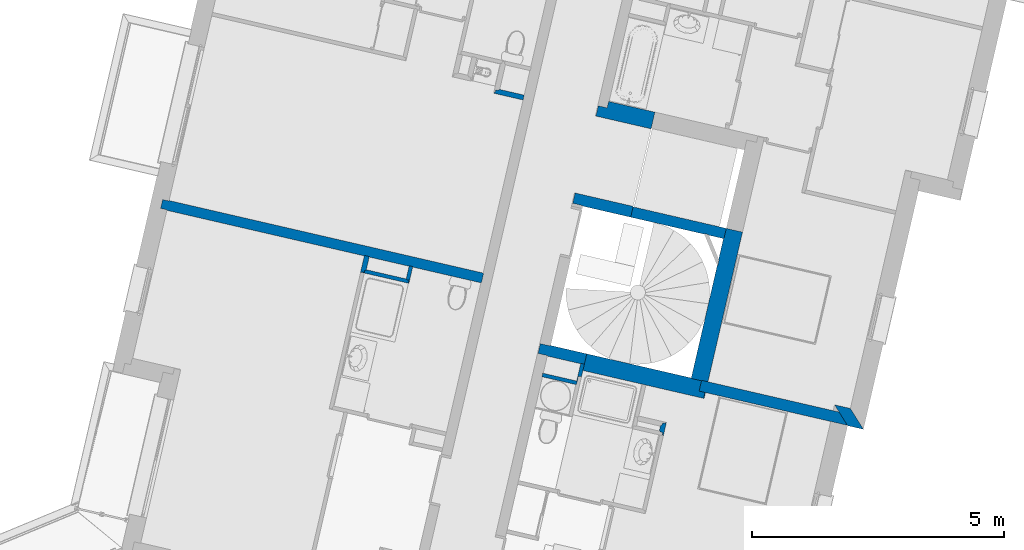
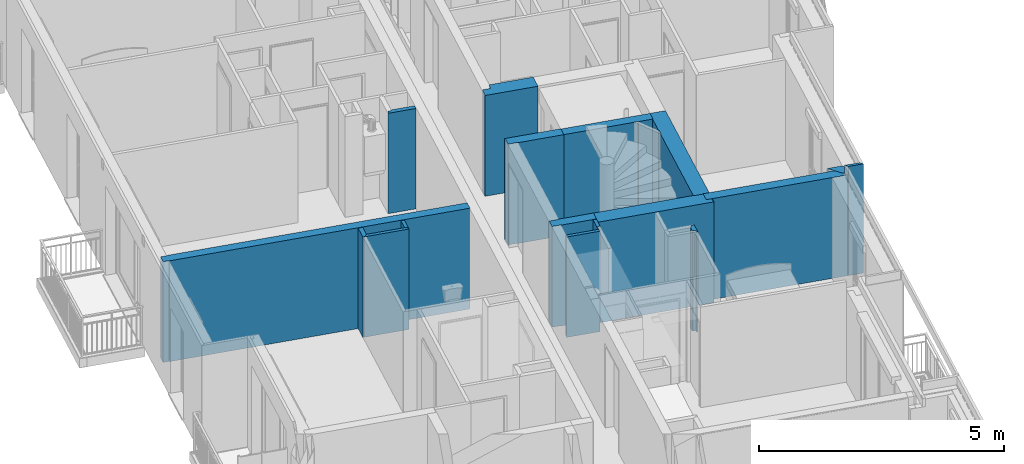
# One storey, part 42 of 91: 16 walls.
"""IFC2X3 building model written with IfcOpenShell, lengths in metres."""

from ifc_helpers import new_model, entity, si_unit, converted_unit, derived_unit, money_unit, direction, frame, origin_with_axes, place, context, subcontext, project, spatial, faceted_brep, material, material_list, type_object, element, save


model = new_model("IFC2X3")

# Units and contexts
model_context = context("Model", 3, precision=1e-05, world=origin_with_axes(), true_north=direction((0.0, 1.0)))
body_context = subcontext(model_context, "Body", "Model", "MODEL_VIEW")
ifc_project = project(units=[si_unit("LENGTHUNIT", "METRE"), si_unit("AREAUNIT", "SQUARE_METRE"), si_unit("VOLUMEUNIT", "CUBIC_METRE"), converted_unit("PLANEANGLEUNIT", "DEGREE", entity("IfcPlaneAngleMeasure", 0.0174532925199), si_unit("PLANEANGLEUNIT", "RADIAN"), dimensions=[0, 0, 0, 0, 0, 0, 0]), si_unit("SOLIDANGLEUNIT", "STERADIAN"), money_unit("EUR"), converted_unit("TIMEUNIT", "Year", entity("IfcTimeMeasure", 31556926.0), si_unit("TIMEUNIT", "SECOND"), dimensions=[0, 0, 1, 0, 0, 0, 0]), si_unit("MASSUNIT", "GRAM", prefix="KILO"), si_unit("THERMODYNAMICTEMPERATUREUNIT", "DEGREE_CELSIUS"), si_unit("LUMINOUSINTENSITYUNIT", "LUMEN"), si_unit("ENERGYUNIT", "JOULE", prefix="MEGA"), derived_unit("THERMALCONDUCTANCEUNIT", [(si_unit("POWERUNIT", "WATT"), 1), (si_unit("LENGTHUNIT", "METRE"), -1), (si_unit("THERMODYNAMICTEMPERATUREUNIT", "KELVIN"), -1)]), derived_unit("SPECIFICHEATCAPACITYUNIT", [(si_unit("ENERGYUNIT", "JOULE"), 1), (si_unit("MASSUNIT", "GRAM", prefix="KILO"), -1), (si_unit("THERMODYNAMICTEMPERATUREUNIT", "KELVIN"), -1)]), derived_unit("MASSDENSITYUNIT", [(si_unit("MASSUNIT", "GRAM", prefix="KILO"), 1), (si_unit("VOLUMEUNIT", "CUBIC_METRE"), -1)])], contexts=[model_context])

# Site, building, storey
site_placement = place(None, origin_with_axes())
site = spatial("IfcSite", under=ifc_project, at=site_placement, Name="Site", CompositionType="ELEMENT")
building_placement = place(site_placement, origin_with_axes())
building = spatial("IfcBuilding", under=site, at=building_placement, Name="Bâtiment", CompositionType="ELEMENT")
storey_placement = place(building_placement, frame((0.0, 0.0, 5.44), z_axis=(0.0, 0.0, 1.0), x_axis=(1.0, 0.0, 0.0)))
storey = spatial("IfcBuildingStorey", under=building, at=storey_placement, Name="R+2", CompositionType="ELEMENT", Elevation=5.44)

# Walls
ifc_material_1 = material(Name="Finition ext - Crépis")
ifc_material_2 = material(Name="Béton cellulaire")
ifc_material_3 = material(Name="Mortier")
ifc_material_4 = material(Name="Isolation - Polystyrène expansé")
ifc_material_5 = material(Name="Bloc ELITHERM")
ifc_material_6 = material(Name="Isolation - Polystyrène extrudé")
ifc_material_7 = material(Name="Finition int - Plaque de plâtre")
ifc_material_list_1 = material_list([ifc_material_1, ifc_material_2, ifc_material_3, ifc_material_4, ifc_material_5, ifc_material_6, ifc_material_7])
wall_type_1 = type_object("IfcWallType", Name="Mur ALKERN + planelle 21 345 x 2720", PredefinedType="USERDEFINED")
wall_1_placement = place(storey_placement, frame((-5.05135470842, -10.4029351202, 0.0), z_axis=(0.0, 0.0, 1.0), x_axis=(-0.974387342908, 0.224876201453, 0.0)))
element("IfcWall", 1, at=wall_1_placement, inside=storey, type_object=wall_type_1, material=ifc_material_list_1, Name="Mue bloc ALKERN isolé", ObjectType="SOLIDWALL", context=body_context, shape_type="Brep", body=[
    faceted_brep([(0.0149999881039, -0.0149999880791, 2.72), (0.337581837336, -0.0149999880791, 2.72), (0.322581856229, -7.0035515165e-09, 2.72), (7.00355551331e-09, -7.00354974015e-09, 2.72), (0.0149999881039, -0.0149999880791, 0.0), (0.337581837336, -0.0149999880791, 0.0), (0.322581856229, -7.0035515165e-09, 0.0), (7.00355551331e-09, -7.0035515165e-09, 0.0)], [[[0, 1, 2, 3]], [[4, 5, 1, 0]], [[5, 6, 2, 1]], [[3, 2, 6, 7]], [[4, 0, 3, 7]], [[7, 6, 5, 4]]]),
    faceted_brep([(0.385581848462, -0.0629999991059, 2.72), (0.337581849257, -0.015, 2.72), (0.0150000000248, -0.015, 2.72), (0.0629999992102, -0.0629999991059, 2.72), (0.337581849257, -0.015, 2.51999998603), (0.385581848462, -0.0629999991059, 2.51999998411), (0.0150000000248, -0.015, 2.51999999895), (0.0629999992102, -0.0629999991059, 2.51999999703)], [[[0, 1, 2, 3]], [[4, 1, 0, 5]], [[1, 4, 6, 2]], [[3, 2, 6, 7]], [[5, 0, 3, 7]], [[4, 5, 7, 6]]]),
    faceted_brep([(0.405581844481, -0.0829999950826, 2.51999998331), (0.337581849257, -0.015, 2.51999998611), (0.0150000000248, -0.015, 2.51999999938), (0.08299999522, -0.0829999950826, 2.51999998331), (0.337581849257, -0.015, 2.51000000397), (0.405581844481, -0.0829999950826, 2.51000000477), (0.0150000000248, -0.015, 2.51000000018), (0.08299999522, -0.0829999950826, 2.51000000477)], [[[0, 1, 2, 3]], [[4, 1, 0, 5]], [[1, 4, 6, 2]], [[3, 2, 6, 7]], [[5, 0, 3, 7]], [[4, 5, 7, 6]]]),
    faceted_brep([(0.0649033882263, -0.0649033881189, 2.51999999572), (0.0649033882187, -0.0649033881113, 2.72), (0.0630000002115, -0.0630000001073, 2.72), (0.0630000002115, -0.0630000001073, 2.51999999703), (0.0649033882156, -0.0630000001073, 2.72), (0.0649033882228, -0.0630000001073, 2.51999999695)], [[[0, 1, 2, 3]], [[4, 1, 0, 5]], [[1, 4, 2]], [[4, 5, 3, 2]], [[5, 0, 3]]]),
    faceted_brep([(0.405581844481, -0.0829999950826, 2.51000000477), (0.337581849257, -0.015, 2.50999999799), (0.0150000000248, -0.015, 2.50999999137), (0.08299999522, -0.0829999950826, 2.51000000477), (0.337581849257, -0.015, 0.0), (0.537581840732, -0.214999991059, 2.51000000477), (0.537581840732, -0.214999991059, 0.0), (0.0150000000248, -0.015, 0.0), (0.214999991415, -0.214999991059, 0.0), (0.214999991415, -0.214999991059, 2.51000000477)], [[[0, 1, 2, 3]], [[4, 1, 0, 5, 6]], [[1, 4, 7, 2]], [[3, 2, 7, 8, 9]], [[5, 0, 3, 9]], [[6, 5, 9, 8]], [[4, 6, 8, 7]]]),
    faceted_brep([(0.335000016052, -0.335000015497, 2.51000000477), (0.65758186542, -0.335000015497, 2.51000000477), (0.537581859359, -0.215000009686, 2.51000000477), (0.215000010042, -0.215000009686, 2.51000000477), (0.335000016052, -0.335000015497, 0.0), (0.65758186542, -0.335000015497, 0.0), (0.537581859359, -0.215000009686, 0.0), (0.215000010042, -0.215000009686, 0.0)], [[[0, 1, 2, 3]], [[4, 5, 1, 0]], [[5, 6, 2, 1]], [[3, 2, 6, 7]], [[4, 0, 3, 7]], [[7, 6, 5, 4]]]),
    faceted_brep([(0.34499997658, -0.344999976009, 2.51000000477), (0.667581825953, -0.344999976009, 2.51000000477), (0.65758186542, -0.335000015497, 2.51000000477), (0.335000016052, -0.335000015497, 2.51000000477), (0.34499997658, -0.344999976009, 0.0), (0.667581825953, -0.344999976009, 0.0), (0.65758186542, -0.335000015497, 0.0), (0.335000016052, -0.335000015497, 0.0)], [[[0, 1, 2, 3]], [[4, 5, 1, 0]], [[5, 6, 2, 1]], [[3, 2, 6, 7]], [[4, 0, 3, 7]], [[7, 6, 5, 4]]]),
])
ifc_material_8 = material(Name="Finition int - Enduit plâtre")
ifc_material_9 = material(Name="Béton")
ifc_material_list_2 = material_list([ifc_material_8, ifc_material_9, ifc_material_8])
wall_type_2 = type_object("IfcWallType", Name="2 - Murs Béton 18 + Enduit 2 Faces 200", PredefinedType="USERDEFINED")
wall_2_placement = place(storey_placement, frame((-19.2167882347, -5.96817026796, 0.0), z_axis=(0.0, 0.0, 1.0), x_axis=(0.97438734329, -0.224876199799, 0.0)))
element("IfcWall", 2, at=wall_2_placement, inside=storey, type_object=wall_type_2, material=ifc_material_list_2, Name="M_Ext-008", ObjectType="SOLIDWALL", context=body_context, shape_type="Brep", body=[
    faceted_brep([(6.74531037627, 0.19, 0.0), (0.34499998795, 0.19, 0.0), (0.34499998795, 0.19, 2.51), (6.74531037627, 0.19, 2.5100000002), (6.74531037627, 0.18, 0.0), (0.344999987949, 0.18, 0.0), (0.344999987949, 0.18, 2.51), (6.74531037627, 0.18, 2.5100000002)], [[[0, 1, 2, 3]], [[4, 5, 1, 0]], [[5, 6, 2, 1]], [[3, 2, 6, 7]], [[4, 0, 3, 7]], [[7, 6, 5, 4]]]),
    faceted_brep([(6.75531037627, 0.18, 0.0), (0.214999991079, 0.18, 0.0), (0.214999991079, 0.18, 2.50999999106), (6.75531037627, 0.18, 2.5100000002), (6.75531037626, 0.0, 0.0), (0.214999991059, 0.0, 0.0), (0.214999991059, 0.0, 2.50999999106), (6.75531037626, 0.0, 2.5100000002)], [[[0, 1, 2, 3]], [[4, 5, 1, 0]], [[5, 6, 2, 1]], [[3, 2, 6, 7]], [[4, 0, 3, 7]], [[7, 6, 5, 4]]]),
    faceted_brep([(5.35531037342, -0.01, 2.5), (5.28131037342, -0.01, 2.5), (5.28131037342, 0.0, 2.5), (5.35531037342, 0.0, 2.5), (5.28131037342, -0.01, 0.0), (5.35531037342, -0.01, 0.0), (6.74531037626, -0.01, 0.0), (6.74531037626, -0.01, 2.5100000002), (0.344999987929, -0.01, 2.51), (0.344999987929, -0.01, 0.0), (4.36931037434, -0.01, 0.0), (4.36931037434, -0.01, 2.5), (4.46931037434, -0.01, 2.5), (4.46931037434, -0.01, 0.0), (5.28131037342, 0.0, 0.0), (4.46931037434, 0.0, 0.0), (4.46931037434, 0.0, 2.5), (4.36931037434, 0.0, 2.5), (4.36931037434, 0.0, 0.0), (0.34499998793, 0.0, 0.0), (0.34499998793, 0.0, 2.51), (6.74531037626, 0.0, 2.5100000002), (6.74531037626, 0.0, 0.0), (5.35531037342, 0.0, 0.0)], [[[0, 1, 2, 3]], [[4, 1, 0, 5, 6, 7, 8, 9, 10, 11, 12, 13]], [[4, 14, 2, 1]], [[2, 14, 15, 16, 17, 18, 19, 20, 21, 22, 23, 3]], [[0, 3, 23, 5]], [[6, 5, 23, 22]], [[6, 22, 21, 7]], [[21, 20, 8, 7]], [[9, 8, 20, 19]], [[19, 18, 10, 9]], [[10, 18, 17, 11]], [[17, 16, 12, 11]], [[12, 16, 15, 13]], [[15, 14, 4, 13]]]),
])
wall_type_3 = type_object("IfcWallType", Name="2 - Murs Béton 20 + Enduit 2 Faces  220", PredefinedType="USERDEFINED")
wall_3_placement = place(storey_placement, frame((-10.5480606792, -8.91918047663, 0.0), z_axis=(0.0, 0.0, 1.0), x_axis=(-0.974387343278, 0.224876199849, 0.0)))
element("IfcWall", 3, at=wall_3_placement, inside=storey, type_object=wall_type_3, material=ifc_material_list_2, Name="M_Ext-009", ObjectType="SOLIDWALL", context=body_context, shape_type="Brep", body=[
    faceted_brep([(0.754999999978, 0.195, 2.51), (0.0, 0.195, 2.51), (0.0, 0.195, 2.5), (0.074, 0.195, 2.5), (0.074, 0.195, 0.0), (0.754999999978, 0.195, 0.0), (0.0, 0.205, 2.51), (0.754999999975, 0.205, 2.51), (0.0, 0.205, 2.5), (0.074, 0.205, 2.5), (0.074, 0.205, 0.0), (0.754999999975, 0.205, 0.0)], [[[0, 1, 2, 3, 4, 5]], [[6, 1, 0, 7]], [[1, 6, 8, 2]], [[8, 9, 3, 2]], [[10, 4, 3, 9]], [[10, 11, 5, 4]], [[7, 0, 5, 11]], [[6, 7, 11, 10, 9, 8]]]),
    faceted_brep([(0.945000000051, -0.005, 2.51), (8.94070772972e-09, -0.005, 2.51), (1.78814136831e-08, -0.005, 2.5), (1.78814136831e-08, -0.005, 0.0), (0.945000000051, -0.005, 0.0), (8.94070772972e-09, 0.195, 2.51), (0.944999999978, 0.195, 2.51), (1.78814136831e-08, 0.195, 2.5), (1.78814136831e-08, 0.195, 0.0), (0.944999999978, 0.195, 0.0)], [[[0, 1, 2, 3, 4]], [[5, 1, 0, 6]], [[1, 5, 7, 2]], [[7, 8, 3, 2]], [[8, 9, 4, 3]], [[6, 0, 4, 9]], [[5, 6, 9, 8, 7]]]),
    faceted_brep([(0.745000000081, -0.015, 2.51), (8.94070772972e-09, -0.015, 2.51), (1.78814136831e-08, -0.015, 2.5), (1.78814136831e-08, -0.015, 0.0), (0.745000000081, -0.015, 0.0), (8.94070772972e-09, -0.005, 2.51), (0.745000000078, -0.005, 2.51), (1.78814136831e-08, -0.005, 2.5), (1.78814136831e-08, -0.005, 0.0), (0.745000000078, -0.005, 0.0)], [[[0, 1, 2, 3, 4]], [[5, 1, 0, 6]], [[1, 5, 7, 2]], [[7, 8, 3, 2]], [[8, 9, 4, 3]], [[6, 0, 4, 9]], [[5, 6, 9, 8, 7]]]),
])
wall_4_placement = place(storey_placement, frame((-9.62496216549, -5.98665355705, 0.0), z_axis=(0.0, 0.0, 1.0), x_axis=(-0.974387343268, 0.224876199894, 0.0)))
element("IfcWall", 4, at=wall_4_placement, inside=storey, type_object=wall_type_3, material=ifc_material_list_2, Name="M_Ext-009", ObjectType="SOLIDWALL", context=body_context, shape_type="Brep", body=[
    faceted_brep([(0.984999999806, 0.21, 0.0), (0.98499999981, 0.2, 0.0), (0.0, 0.2, 0.0), (0.0, 0.21, 0.0), (0.984999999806, 0.21, 2.51), (0.98499999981, 0.2, 2.51), (0.0, 0.2, 2.51), (0.0, 0.21, 2.51)], [[[0, 1, 2, 3]], [[1, 0, 4, 5]], [[1, 5, 6, 2]], [[7, 3, 2, 6]], [[4, 0, 3, 7]], [[5, 4, 7, 6]]]),
    faceted_brep([(1.18499999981, 0.2, 0.0), (1.18499999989, 0.0, 0.0), (0.0, 0.0, 0.0), (0.0, 0.2, 0.0), (1.18499999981, 0.2, 2.51), (1.18499999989, 0.0, 2.51), (0.0, 0.0, 2.51), (0.0, 0.2, 2.51)], [[[0, 1, 2, 3]], [[1, 0, 4, 5]], [[1, 5, 6, 2]], [[7, 3, 2, 6]], [[4, 0, 3, 7]], [[5, 4, 7, 6]]]),
    faceted_brep([(1.19499999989, 0.0, 0.0), (1.19499999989, -0.01, 0.0), (0.0, -0.01, 0.0), (0.0, 0.0, 0.0), (1.19499999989, 0.0, 2.51), (1.19499999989, -0.01, 2.51), (0.0, -0.01, 2.51), (0.0, 0.0, 2.51)], [[[0, 1, 2, 3]], [[1, 0, 4, 5]], [[1, 5, 6, 2]], [[7, 3, 2, 6]], [[4, 0, 3, 7]], [[5, 4, 7, 6]]]),
])
wall_5_placement = place(storey_placement, frame((-5.37691703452, -10.3124051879, 0.0), z_axis=(0.0, 0.0, 1.0), x_axis=(-0.974387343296, 0.224876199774, 0.0)))
element("IfcWall", 5, at=wall_5_placement, inside=storey, type_object=wall_type_3, material=ifc_material_list_2, Name="M_Ext-009", ObjectType="SOLIDWALL", context=body_context, shape_type="Brep", body=[
    faceted_brep([(0.0, 0.0, 2.51), (3.01199999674, 0.0, 2.51), (3.01199999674, 0.01, 2.51), (0.0, 0.01, 2.51), (0.0, 0.0, 0.0), (3.01199999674, 0.0, 0.0), (3.01199999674, 0.01, 0.0), (0.0, 0.01, 0.0)], [[[0, 1, 2, 3]], [[4, 5, 1, 0]], [[2, 1, 5, 6]], [[3, 2, 6, 7]], [[4, 0, 3, 7]], [[7, 6, 5, 4]]]),
    faceted_brep([(0.0, -0.2, 2.51), (3.01199999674, -0.2, 2.51), (3.01199999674, 0.0, 2.51), (0.0, 0.0, 2.51), (0.0, -0.2, 0.0), (3.01199999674, -0.2, 0.0), (3.01199999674, 0.0, 0.0), (0.0, 0.0, 0.0)], [[[0, 1, 2, 3]], [[4, 5, 1, 0]], [[2, 1, 5, 6]], [[3, 2, 6, 7]], [[4, 0, 3, 7]], [[7, 6, 5, 4]]]),
    faceted_brep([(0.0, -0.21, 2.51), (3.01199999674, -0.21, 2.51), (3.01199999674, -0.2, 2.51), (0.0, -0.2, 2.51), (0.0, -0.21, 0.0), (3.01199999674, -0.21, 0.0), (3.01199999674, -0.2, 0.0), (0.0, -0.2, 0.0)], [[[0, 1, 2, 3]], [[4, 5, 1, 0]], [[2, 1, 5, 6]], [[3, 2, 6, 7]], [[4, 0, 3, 7]], [[7, 6, 5, 4]]]),
])
ifc_material_10 = material(Name="Isolation - Laine de roche")
ifc_material_list_3 = material_list([ifc_material_7, ifc_material_10, ifc_material_7])
wall_type_4 = type_object("IfcWallType", Name="3 - Cloison Gaine Technique 72mm 74", PredefinedType="USERDEFINED")
wall_6_placement = place(storey_placement, frame((-10.5480606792, -8.91918047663, 0.0), z_axis=(0.0, 0.0, 1.0), x_axis=(-0.224876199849, -0.974387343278, 0.0)))
element("IfcWall", 6, at=wall_6_placement, inside=storey, type_object=wall_type_4, material=ifc_material_list_3, Name="Cloison Placostil 72/48", ObjectType="PARTITIONING", context=body_context, shape_type="Brep", body=[
    faceted_brep([(0.195, -0.013, 2.5), (0.454999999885, -0.013, 2.5), (0.454999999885, 0.0, 2.5), (0.195, 0.0, 2.5), (0.195, -0.013, 0.0), (0.454999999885, -0.013, 0.0), (0.454999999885, 0.0, 0.0), (0.195, 0.0, 0.0)], [[[0, 1, 2, 3]], [[4, 5, 1, 0]], [[5, 6, 2, 1]], [[3, 2, 6, 7]], [[7, 4, 0, 3]], [[7, 6, 5, 4]]]),
    faceted_brep([(0.195, -0.061, 2.5), (0.454999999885, -0.061, 2.5), (0.454999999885, -0.013, 2.5), (0.195, -0.013, 2.5), (0.195, -0.061, 0.0), (0.454999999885, -0.061, 0.0), (0.454999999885, -0.013, 0.0), (0.195, -0.013, 0.0)], [[[0, 1, 2, 3]], [[4, 5, 1, 0]], [[5, 6, 2, 1]], [[3, 2, 6, 7]], [[7, 4, 0, 3]], [[7, 6, 5, 4]]]),
    faceted_brep([(0.195, -0.074, 2.5), (0.567999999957, -0.074, 2.5), (0.567999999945, -0.061, 2.5), (0.195, -0.061, 2.5), (0.195, -0.074, 0.0), (0.567999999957, -0.074, 0.0), (0.567999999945, -0.061, 0.0), (0.195, -0.061, 0.0)], [[[0, 1, 2, 3]], [[4, 5, 1, 0]], [[6, 2, 1, 5]], [[3, 2, 6, 7]], [[7, 4, 0, 3]], [[7, 6, 5, 4]]]),
])
wall_7_placement = place(storey_placement, frame((-10.689507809, -9.53207011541, 0.0), z_axis=(0.0, 0.0, 1.0), x_axis=(-0.974387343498, 0.224876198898, 0.0)))
element("IfcWall", 7, at=wall_7_placement, inside=storey, type_object=wall_type_4, material=ifc_material_list_3, Name="Cloison Placostil 72/48", ObjectType="PARTITIONING", context=body_context, shape_type="Brep", body=[
    faceted_brep([(0.764999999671, 0.0, 2.5), (0.0609999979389, 0.0, 2.5), (0.0609999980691, -0.013, 2.5), (0.764999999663, -0.013, 2.5), (0.764999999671, 0.0, 0.0), (0.0609999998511, 0.0, 0.0), (0.0609999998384, -0.013, 0.0), (0.764999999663, -0.013, 0.0)], [[[0, 1, 2, 3]], [[4, 5, 1, 0]], [[5, 6, 2, 1]], [[3, 2, 6, 7]], [[4, 0, 3, 7]], [[7, 6, 5, 4]]]),
    faceted_brep([(0.0609999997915, -0.061, 2.5), (0.764999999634, -0.061, 2.5), (0.764999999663, -0.013, 2.5), (0.0609999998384, -0.013, 2.5), (0.0609999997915, -0.061, 0.0), (0.764999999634, -0.061, 0.0), (0.764999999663, -0.013, 0.0), (0.0609999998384, -0.013, 0.0)], [[[0, 1, 2, 3]], [[4, 5, 1, 0]], [[6, 2, 1, 5]], [[3, 2, 6, 7]], [[7, 4, 0, 3]], [[7, 6, 5, 4]]]),
    faceted_brep([(0.0739999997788, -0.074, 2.5), (0.764999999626, -0.074, 2.5), (0.764999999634, -0.061, 2.5), (0.0739999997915, -0.061, 2.5), (0.0739999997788, -0.074, 0.0), (0.764999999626, -0.074, 0.0), (0.764999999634, -0.061, 0.0), (0.0739999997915, -0.061, 0.0)], [[[0, 1, 2, 3]], [[4, 5, 1, 0]], [[6, 2, 1, 5]], [[3, 2, 6, 7]], [[7, 4, 0, 3]], [[7, 6, 5, 4]]]),
])
wall_8_placement = place(storey_placement, frame((-14.9388564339, -7.306452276, 0.0), z_axis=(0.0, 0.0, 1.0), x_axis=(0.974387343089, -0.22487620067, 0.0)))
element("IfcWall", 8, at=wall_8_placement, inside=storey, type_object=wall_type_4, material=ifc_material_list_3, Name="Cloison Placostil 72/48", ObjectType="PARTITIONING", context=body_context, shape_type="Brep", body=[
    faceted_brep([(0.824999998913, 0.074, 0.0), (0.82499999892, 0.061, 0.0), (0.0, 0.061, 0.0), (0.0, 0.074, 0.0), (0.824999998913, 0.074, 2.5), (0.82499999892, 0.061, 2.5), (0.0, 0.061, 2.5), (0.0, 0.074, 2.5)], [[[0, 1, 2, 3]], [[1, 0, 4, 5]], [[1, 5, 6, 2]], [[7, 3, 2, 6]], [[4, 0, 3, 7]], [[5, 4, 7, 6]]]),
    faceted_brep([(0.87299999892, 0.061, 0.0), (0.872999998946, 0.013, 0.0), (-0.0260000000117, 0.013, 0.0), (-0.026000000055, 0.061, 0.0), (0.87299999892, 0.061, 2.5), (0.872999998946, 0.013, 2.5), (-0.0260000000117, 0.013, 2.5), (-0.026000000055, 0.061, 2.5)], [[[0, 1, 2, 3]], [[1, 0, 4, 5]], [[1, 5, 6, 2]], [[7, 3, 2, 6]], [[4, 0, 3, 7]], [[5, 4, 7, 6]]]),
    faceted_brep([(0.885999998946, 0.013, 0.0), (0.885999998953, 0.0, 0.0), (-0.074, 0.0, 0.0), (-0.0740000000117, 0.013, 0.0), (0.885999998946, 0.013, 2.5), (0.885999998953, 0.0, 2.5), (-0.074, 0.0, 2.5), (-0.0740000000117, 0.013, 2.5)], [[[0, 1, 2, 3]], [[1, 0, 4, 5]], [[1, 5, 6, 2]], [[7, 3, 2, 6]], [[4, 0, 3, 7]], [[5, 4, 7, 6]]]),
])
wall_9_placement = place(storey_placement, frame((-14.075549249, -7.50569258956, 0.0), z_axis=(0.0, 0.0, 1.0), x_axis=(0.224876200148, 0.97438734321, 0.0)))
element("IfcWall", 9, at=wall_9_placement, inside=storey, type_object=wall_type_4, material=ifc_material_list_3, Name="Cloison Placostil 72/48", ObjectType="PARTITIONING", context=body_context, shape_type="Brep", body=[
    faceted_brep([(0.342000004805, 0.074, 0.0), (0.342000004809, 0.061, 0.0), (0.0740000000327, 0.061, 0.0), (0.0740000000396, 0.074, 0.0), (0.342000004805, 0.074, 2.5), (0.342000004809, 0.061, 2.5), (0.0740000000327, 0.061, 2.5), (0.0740000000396, 0.074, 2.5)], [[[0, 1, 2, 3]], [[1, 0, 4, 5]], [[1, 5, 6, 2]], [[7, 3, 2, 6]], [[4, 0, 3, 7]], [[5, 4, 7, 6]]]),
    faceted_brep([(0.342000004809, 0.061, 0.0), (0.342000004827, 0.013, 0.0), (0.061000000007, 0.013, 0.0), (0.0610000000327, 0.061, 0.0), (0.342000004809, 0.061, 2.5), (0.342000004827, 0.013, 2.5), (0.061000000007, 0.013, 2.5), (0.0610000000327, 0.061, 2.5)], [[[0, 1, 2, 3]], [[1, 0, 4, 5]], [[1, 5, 6, 2]], [[7, 3, 2, 6]], [[4, 0, 3, 7]], [[5, 4, 7, 6]]]),
    faceted_brep([(0.342000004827, 0.013, 0.0), (0.342000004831, 0.0, 0.0), (0.013, 0.0, 0.0), (0.013000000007, 0.013, 0.0), (0.342000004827, 0.013, 2.5), (0.342000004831, 0.0, 2.5), (0.013, 0.0, 2.5), (0.013000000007, 0.013, 2.5)], [[[0, 1, 2, 3]], [[1, 0, 4, 5]], [[1, 5, 6, 2]], [[7, 3, 2, 6]], [[4, 0, 3, 7]], [[5, 4, 7, 6]]]),
])
ifc_material_list_4 = material_list([ifc_material_7, ifc_material_7, ifc_material_10, ifc_material_7, ifc_material_7])
wall_type_5 = type_object("IfcWallType", Name="3 - Cloison Gaine Technique 98mm 100", PredefinedType="USERDEFINED")
wall_10_placement = place(storey_placement, frame((-9.08327526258, -10.3409922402, 0.0), z_axis=(0.0, 0.0, 1.0), x_axis=(-0.224876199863, -0.974387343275, 0.0)))
element("IfcWall", 10, at=wall_10_placement, inside=storey, type_object=wall_type_5, material=ifc_material_list_4, Name="Cloison 98 isolée", ObjectType="PARTITIONING", context=body_context, shape_type="Brep", body=[
    faceted_brep([(0.173999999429, 0.1, 0.0), (0.173999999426, 0.087, 0.0), (-0.0999999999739, 0.087, 0.0), (-0.09999999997, 0.1, 0.0), (0.173999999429, 0.1, 2.5), (0.173999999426, 0.087, 2.5), (-0.0999999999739, 0.087, 2.5), (-0.09999999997, 0.1, 2.5)], [[[0, 1, 2, 3]], [[1, 0, 4, 5]], [[1, 5, 6, 2]], [[7, 3, 2, 6]], [[4, 0, 3, 7]], [[5, 4, 7, 6]]]),
    faceted_brep([(0.160999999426, 0.087, 0.0), (0.160999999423, 0.074, 0.0), (-0.0869999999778, 0.074, 0.0), (-0.0869999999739, 0.087, 0.0), (0.160999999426, 0.087, 2.5), (0.160999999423, 0.074, 2.5), (-0.0869999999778, 0.074, 2.5), (-0.0869999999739, 0.087, 2.5)], [[[0, 1, 2, 3]], [[1, 0, 4, 5]], [[1, 5, 6, 2]], [[7, 3, 2, 6]], [[4, 0, 3, 7]], [[5, 4, 7, 6]]]),
    faceted_brep([(0.112999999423, 0.074, 0.0), (0.112999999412, 0.026, 0.0), (-0.0739999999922, 0.026, 0.0), (-0.0739999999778, 0.074, 0.0), (0.112999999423, 0.074, 2.5), (0.112999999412, 0.026, 2.5), (-0.0739999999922, 0.026, 2.5), (-0.0739999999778, 0.074, 2.5)], [[[0, 1, 2, 3]], [[1, 0, 4, 5]], [[1, 5, 6, 2]], [[7, 3, 2, 6]], [[4, 0, 3, 7]], [[5, 4, 7, 6]]]),
    faceted_brep([(0.112999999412, 0.026, 0.0), (0.112999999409, 0.013, 0.0), (-0.0259999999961, 0.013, 0.0), (-0.0259999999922, 0.026, 0.0), (0.112999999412, 0.026, 2.5), (0.112999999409, 0.013, 2.5), (-0.0259999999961, 0.013, 2.5), (-0.0259999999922, 0.026, 2.5)], [[[0, 1, 2, 3]], [[1, 0, 4, 5]], [[1, 5, 6, 2]], [[7, 3, 2, 6]], [[4, 0, 3, 7]], [[5, 4, 7, 6]]]),
    faceted_brep([(0.0999999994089, 0.013, 0.0), (0.0999999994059, 0.0, 0.0), (-0.013, 0.0, 0.0), (-0.0129999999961, 0.013, 0.0), (0.0999999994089, 0.013, 2.5), (0.0999999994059, 0.0, 2.5), (-0.013, 0.0, 2.5), (-0.0129999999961, 0.013, 2.5)], [[[0, 1, 2, 3]], [[1, 0, 4, 5]], [[1, 5, 6, 2]], [[7, 3, 2, 6]], [[4, 0, 3, 7]], [[5, 4, 7, 6]]]),
])
wall_11_placement = place(storey_placement, frame((-14.8619487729, -6.97321180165, 0.0), z_axis=(0.0, 0.0, 1.0), x_axis=(-0.224876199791, -0.974387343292, 0.0)))
element("IfcWall", 11, at=wall_11_placement, inside=storey, type_object=wall_type_5, material=ifc_material_list_4, Name="Cloison 98 isolée", ObjectType="PARTITIONING", context=body_context, shape_type="Brep", body=[
    faceted_brep([(0.281000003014, -0.013, 2.5), (0.281000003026, 0.0, 2.5), (-1.01377573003e-09, 0.0, 2.5), (-1.0138840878e-09, -0.013, 2.5), (0.281000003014, -0.013, 0.0), (0.281000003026, 0.0, 0.0), (-1.01377395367e-09, 0.0, 0.0), (-1.0138840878e-09, -0.013, 0.0)], [[[0, 1, 2, 3]], [[1, 0, 4, 5]], [[1, 5, 6, 2]], [[7, 3, 2, 6]], [[4, 0, 3, 7]], [[5, 4, 7, 6]]]),
    faceted_brep([(0.281000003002, -0.026, 2.5), (0.281000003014, -0.013, 2.5), (-1.0138840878e-09, -0.013, 2.5), (-1.01399244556e-09, -0.026, 2.5), (0.281000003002, -0.026, 0.0), (0.281000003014, -0.013, 0.0), (-1.0138840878e-09, -0.013, 0.0), (-1.01399244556e-09, -0.026, 0.0)], [[[0, 1, 2, 3]], [[1, 0, 4, 5]], [[1, 5, 6, 2]], [[7, 3, 2, 6]], [[4, 0, 3, 7]], [[5, 4, 7, 6]]]),
    faceted_brep([(0.329000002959, -0.074, 2.5), (0.329000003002, -0.026, 2.5), (-1.01399244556e-09, -0.026, 2.5), (-1.01439567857e-09, -0.074, 2.5), (0.329000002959, -0.074, 0.0), (0.329000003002, -0.026, 0.0), (-1.01399244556e-09, -0.026, 0.0), (-1.01439567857e-09, -0.074, 0.0)], [[[0, 1, 2, 3]], [[1, 0, 4, 5]], [[1, 5, 6, 2]], [[7, 3, 2, 6]], [[4, 0, 3, 7]], [[5, 4, 7, 6]]]),
    faceted_brep([(0.342000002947, -0.087, 2.5), (0.342000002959, -0.074, 2.5), (-1.01439567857e-09, -0.074, 2.5), (-1.01450581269e-09, -0.087, 2.5), (0.342000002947, -0.087, 0.0), (0.342000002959, -0.074, 0.0), (-1.01439567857e-09, -0.074, 0.0), (-1.01450581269e-09, -0.087, 0.0)], [[[0, 1, 2, 3]], [[1, 0, 4, 5]], [[1, 5, 6, 2]], [[7, 3, 2, 6]], [[4, 0, 3, 7]], [[5, 4, 7, 6]]]),
    faceted_brep([(0.342000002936, -0.1, 2.5), (0.342000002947, -0.087, 2.5), (-1.01450581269e-09, -0.087, 2.5), (-1.01461417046e-09, -0.1, 2.5), (0.342000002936, -0.1, 0.0), (0.342000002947, -0.087, 0.0), (-1.01450581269e-09, -0.087, 0.0), (-1.01461417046e-09, -0.1, 0.0)], [[[0, 1, 2, 3]], [[1, 0, 4, 5]], [[1, 5, 6, 2]], [[7, 3, 2, 6]], [[4, 0, 3, 7]], [[5, 4, 7, 6]]]),
])
wall_12_placement = place(storey_placement, frame((-11.808762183, -3.86489545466, 0.0), z_axis=(0.0, 0.0, 1.0), x_axis=(-0.974387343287, 0.224876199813, 0.0)))
element("IfcWall", 12, at=wall_12_placement, inside=storey, type_object=wall_type_5, material=ifc_material_list_4, Name="Cloison 98 isolée", ObjectType="PARTITIONING", context=body_context, shape_type="Brep", body=[
    faceted_brep([(0.599999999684, -0.013, 2.5), (0.599999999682, 0.0, 2.5), (0.0, 0.0, 2.5), (0.0, -0.013, 2.5), (0.599999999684, -0.013, 0.0), (0.599999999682, 0.0, 0.0), (0.0, 0.0, 0.0), (0.0, -0.013, 0.0)], [[[0, 1, 2, 3]], [[1, 0, 4, 5]], [[1, 5, 6, 2]], [[7, 3, 2, 6]], [[4, 0, 3, 7]], [[5, 4, 7, 6]]]),
    faceted_brep([(0.586999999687, -0.026, 2.5), (0.586999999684, -0.013, 2.5), (0.0, -0.013, 2.5), (0.0, -0.026, 2.5), (0.586999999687, -0.026, 0.0), (0.586999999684, -0.013, 0.0), (0.0, -0.013, 0.0), (0.0, -0.026, 0.0)], [[[0, 1, 2, 3]], [[1, 0, 4, 5]], [[1, 5, 6, 2]], [[7, 3, 2, 6]], [[4, 0, 3, 7]], [[5, 4, 7, 6]]]),
    faceted_brep([(0.573999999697, -0.074, 2.5), (0.573999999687, -0.026, 2.5), (0.0, -0.026, 2.5), (0.0, -0.074, 2.5), (0.573999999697, -0.074, 0.0), (0.573999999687, -0.026, 0.0), (0.0, -0.026, 0.0), (0.0, -0.074, 0.0)], [[[0, 1, 2, 3]], [[1, 0, 4, 5]], [[1, 5, 6, 2]], [[7, 3, 2, 6]], [[4, 0, 3, 7]], [[5, 4, 7, 6]]]),
    faceted_brep([(0.5259999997, -0.087, 2.5), (0.525999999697, -0.074, 2.5), (0.0, -0.074, 2.5), (0.0, -0.087, 2.5), (0.5259999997, -0.087, 0.0), (0.525999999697, -0.074, 0.0), (0.0, -0.074, 0.0), (0.0, -0.087, 0.0)], [[[0, 1, 2, 3]], [[1, 0, 4, 5]], [[1, 5, 6, 2]], [[7, 3, 2, 6]], [[4, 0, 3, 7]], [[5, 4, 7, 6]]]),
    faceted_brep([(0.512999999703, -0.1, 2.5), (0.5129999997, -0.087, 2.5), (0.0, -0.087, 2.5), (0.0, -0.1, 2.5), (0.512999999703, -0.1, 0.0), (0.5129999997, -0.087, 0.0), (0.0, -0.087, 0.0), (0.0, -0.1, 0.0)], [[[0, 1, 2, 3]], [[1, 0, 4, 5]], [[1, 5, 6, 2]], [[7, 3, 2, 6]], [[4, 0, 3, 7]], [[5, 4, 7, 6]]]),
])
ifc_material_list_5 = material_list([ifc_material_8, ifc_material_9])
wall_type_6 = type_object("IfcWallType", Name="2 - Murs Béton 20 + Enduit 1 Face  210", PredefinedType="USERDEFINED")
wall_13_placement = place(storey_placement, frame((-7.77362621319, -6.41391833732, 0.0), z_axis=(0.0, 0.0, 1.0), x_axis=(-0.974387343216, 0.224876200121, 0.0)))
element("IfcWall", 13, at=wall_13_placement, inside=storey, type_object=wall_type_6, material=ifc_material_list_5, Name="M_Ext-009", ObjectType="SOLIDWALL", context=body_context, shape_type="Brep", body=[
    faceted_brep([(0.309940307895, 0.21, 2.51), (0.00999999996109, 0.21, 2.51), (0.00999999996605, 0.2, 2.51), (0.317079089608, 0.2, 2.51), (0.309940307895, 0.21, 0.0), (0.00999999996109, 0.21, 0.0), (0.00999999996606, 0.2, 0.0), (0.317079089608, 0.2, 0.0)], [[[0, 1, 2, 3]], [[4, 5, 1, 0]], [[5, 6, 2, 1]], [[3, 2, 6, 7]], [[4, 0, 3, 7]], [[7, 6, 5, 4]]]),
    faceted_brep([(1.90000000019, 0.21, 2.51), (0.400861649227, 0.21, 2.51), (0.408000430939, 0.2, 2.51), (1.90000000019, 0.2, 2.51), (1.90000000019, 0.21, 0.0), (0.400861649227, 0.21, 0.0), (0.408000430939, 0.2, 0.0), (1.90000000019, 0.2, 0.0)], [[[0, 1, 2, 3]], [[4, 5, 1, 0]], [[5, 6, 2, 1]], [[3, 2, 6, 7]], [[0, 3, 7, 4]], [[7, 6, 5, 4]]]),
    faceted_brep([(1.90000000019, 0.2, 2.51), (0.0, 0.2, 2.51), (0.0, 1.43973988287e-09, 2.51), (1.90000000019, 0.0, 2.51), (1.90000000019, 0.2, 0.0), (0.0, 0.2, 0.0), (0.0, 4.9300297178e-10, 0.0), (1.90000000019, 0.0, 0.0)], [[[0, 1, 2, 3]], [[4, 5, 1, 0]], [[6, 2, 1, 5]], [[3, 2, 6, 7]], [[0, 3, 7, 4]], [[7, 6, 5, 4]]]),
])
ifc_material_list_6 = material_list([ifc_material_7, ifc_material_6, ifc_material_9, ifc_material_8])
wall_type_7 = type_object("IfcWallType", Name="2 - Murs Béton 20 + Isolant 120 + Enduit 1 Faces 340", PredefinedType="USERDEFINED")
wall_14_placement = place(storey_placement, frame((-7.77362621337, -6.41391833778, 0.0), z_axis=(0.0, 0.0, 1.0), x_axis=(-0.224876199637, -0.974387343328, 0.0)))
element("IfcWall", 14, at=wall_14_placement, inside=storey, type_object=wall_type_7, material=ifc_material_list_6, Name="M_Ext-008", ObjectType="SOLIDWALL", context=body_context, shape_type="Brep", body=[
    faceted_brep([(3.37999999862, 0.32, 0.0), (0.0, 0.32, 0.0), (0.0, 0.33, 0.0), (3.37999999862, 0.33, 0.0), (3.37999999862, 0.32, 2.51), (0.0, 0.32, 2.51), (0.0, 0.33, 2.51), (3.37999999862, 0.33, 2.51)], [[[0, 1, 2, 3]], [[4, 5, 1, 0]], [[1, 5, 6, 2]], [[3, 2, 6, 7]], [[7, 4, 0, 3]], [[7, 6, 5, 4]]]),
    faceted_brep([(3.25999999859, 0.2, 0.0), (0.0, 0.2, 0.0), (0.0, 0.32, 0.0), (3.25999999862, 0.32, 0.0), (3.25999999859, 0.2, 2.51), (0.0, 0.2, 2.51), (0.0, 0.32, 2.51), (3.25999999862, 0.32, 2.51)], [[[0, 1, 2, 3]], [[4, 5, 1, 0]], [[1, 5, 6, 2]], [[3, 2, 6, 7]], [[7, 4, 0, 3]], [[7, 6, 5, 4]]]),
    faceted_brep([(3.05999999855, 0.0, 0.0), (0.0, 0.0, 0.0), (0.0, 0.2, 0.0), (3.05999999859, 0.2, 0.0), (3.05999999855, 0.0, 2.51), (0.0, 0.0, 2.51), (0.0, 0.2, 2.51), (3.05999999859, 0.2, 2.51)], [[[0, 1, 2, 3]], [[4, 5, 1, 0]], [[1, 5, 6, 2]], [[3, 2, 6, 7]], [[7, 4, 0, 3]], [[7, 6, 5, 4]]]),
    faceted_brep([(0.644164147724, 0.0, 0.0), (0.199999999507, 0.0, 0.0), (0.199999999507, 0.0, 2.51), (0.644164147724, 0.0, 2.51), (0.630156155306, -0.01, 0.0), (0.199999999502, -0.01, 0.0), (0.199999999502, -0.01, 2.51), (0.630156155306, -0.01, 2.51)], [[[0, 1, 2, 3]], [[4, 5, 1, 0]], [[5, 6, 2, 1]], [[3, 2, 6, 7]], [[3, 7, 4, 0]], [[7, 6, 5, 4]]]),
    faceted_brep([(0.757518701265, -0.01, 0.0), (0.771526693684, 0.0, 0.0), (3.04999999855, 0.0, 0.0), (3.04999999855, -0.01, 0.0), (0.757518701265, -0.01, 2.51), (0.771526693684, 0.0, 2.51), (3.04999999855, 0.0, 2.51), (3.04999999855, -0.01, 2.51)], [[[0, 1, 2, 3]], [[1, 0, 4, 5]], [[1, 5, 6, 2]], [[7, 3, 2, 6]], [[4, 0, 3, 7]], [[5, 4, 7, 6]]]),
])
ifc_material_list_7 = material_list([ifc_material_8, ifc_material_9, ifc_material_6, ifc_material_7])
wall_15_placement = place(storey_placement, frame((-9.26516024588, -4.42763380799, 0.0), z_axis=(0.0, 0.0, 1.0), x_axis=(-0.974387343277, 0.224876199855, 0.0)))
element("IfcWall", 15, at=wall_15_placement, inside=storey, type_object=wall_type_7, material=ifc_material_list_7, Name="M_Ext-008", ObjectType="SOLIDWALL", context=body_context, shape_type="Brep", body=[
    faceted_brep([(1.13460948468, 0.0, 2.51), (1.13460948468, 0.01, 2.51), (0.0, 0.01, 2.51), (0.0, 0.0, 2.51), (1.13460948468, 0.0, 0.0), (1.13460948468, 0.01, 0.0), (0.0, 0.01, 0.0), (0.0, 0.0, 0.0)], [[[0, 1, 2, 3]], [[1, 0, 4, 5]], [[1, 5, 6, 2]], [[7, 3, 2, 6]], [[4, 0, 3, 7]], [[5, 4, 7, 6]]]),
    faceted_brep([(1.12460948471, -0.2, 2.51), (1.12460948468, 0.0, 2.51), (0.0, 0.0, 2.51), (0.0, -0.2, 2.51), (1.12460948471, -0.2, 0.0), (1.12460948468, 0.0, 0.0), (0.0, 0.0, 0.0), (0.0, -0.2, 0.0)], [[[0, 1, 2, 3]], [[1, 0, 4, 5]], [[1, 5, 6, 2]], [[7, 3, 2, 6]], [[4, 0, 3, 7]], [[5, 4, 7, 6]]]),
    faceted_brep([(0.94460948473, -0.32, 2.51), (0.944609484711, -0.2, 2.51), (0.0, -0.2, 2.51), (0.0, -0.32, 2.51), (0.94460948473, -0.32, 0.0), (0.944609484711, -0.2, 0.0), (0.0, -0.2, 0.0), (0.0, -0.32, 0.0)], [[[0, 1, 2, 3]], [[1, 0, 4, 5]], [[1, 5, 6, 2]], [[7, 3, 2, 6]], [[4, 0, 3, 7]], [[5, 4, 7, 6]]]),
    faceted_brep([(0.944609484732, -0.33, 2.51), (0.94460948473, -0.32, 2.51), (0.0, -0.32, 2.51), (0.0, -0.33, 2.51), (0.944609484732, -0.33, 0.0), (0.94460948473, -0.32, 0.0), (0.0, -0.32, 0.0), (0.0, -0.33, 0.0)], [[[0, 1, 2, 3]], [[1, 0, 4, 5]], [[1, 5, 6, 2]], [[7, 3, 2, 6]], [[4, 0, 3, 7]], [[5, 4, 7, 6]]]),
])
wall_16_placement = place(storey_placement, frame((-8.46174738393, -9.39554360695, 0.0), z_axis=(0.0, 0.0, 1.0), x_axis=(-0.974387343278, 0.224876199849, 0.0)))
element("IfcWall", 16, at=wall_16_placement, inside=storey, type_object=wall_type_7, material=ifc_material_list_6, Name="M_Ext-008", ObjectType="SOLIDWALL", context=body_context, shape_type="Brep", body=[
    faceted_brep([(-0.330000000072, 0.33, 0.0), (2.13999999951, 0.33, 0.0), (2.13999999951, 0.32, 0.0), (-0.33000000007, 0.32, 0.0), (-0.330000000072, 0.33, 2.51), (2.13999999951, 0.33, 2.51), (2.13999999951, 0.32, 2.51), (-0.33000000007, 0.32, 2.51)], [[[0, 1, 2, 3]], [[4, 5, 1, 0]], [[2, 1, 5, 6]], [[3, 2, 6, 7]], [[4, 0, 3, 7]], [[7, 6, 5, 4]]]),
    faceted_brep([(-0.32000000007, 0.32, 0.0), (2.13999999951, 0.32, 0.0), (2.13999999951, 0.2, 0.0), (-0.320000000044, 0.2, 0.0), (-0.32000000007, 0.32, 2.51), (2.13999999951, 0.32, 2.51), (2.13999999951, 0.2, 2.51), (-0.320000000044, 0.2, 2.51)], [[[0, 1, 2, 3]], [[4, 5, 1, 0]], [[2, 1, 5, 6]], [[3, 2, 6, 7]], [[4, 0, 3, 7]], [[7, 6, 5, 4]]]),
    faceted_brep([(-0.200000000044, 0.2, 0.0), (2.13999999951, 0.2, 0.0), (2.13999999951, 0.0, 0.0), (-0.2, 0.0, 0.0), (-0.200000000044, 0.2, 2.51), (2.13999999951, 0.2, 2.51), (2.13999999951, 0.0, 2.51), (-0.2, 0.0, 2.51)], [[[0, 1, 2, 3]], [[4, 5, 1, 0]], [[2, 1, 5, 6]], [[3, 2, 6, 7]], [[4, 0, 3, 7]], [[7, 6, 5, 4]]]),
    faceted_brep([(0.0, 0.0, 0.0), (2.13999999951, 0.0, 0.0), (2.13999999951, -0.01, 0.0), (0.0, -0.01, 0.0), (0.0, 0.0, 2.51), (2.13999999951, 0.0, 2.51), (2.13999999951, -0.01, 2.51), (0.0, -0.01, 2.51)], [[[0, 1, 2, 3]], [[4, 5, 1, 0]], [[2, 1, 5, 6]], [[3, 2, 6, 7]], [[4, 0, 3, 7]], [[7, 6, 5, 4]]]),
])

save(model, "model.ifc")
